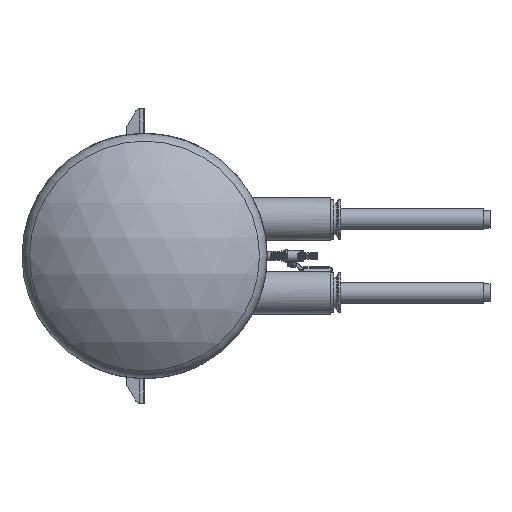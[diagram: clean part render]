
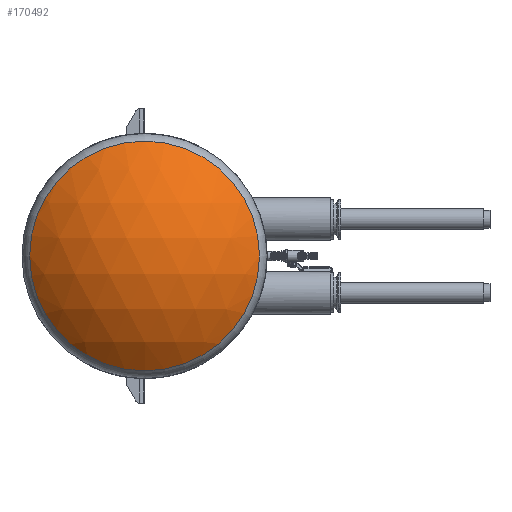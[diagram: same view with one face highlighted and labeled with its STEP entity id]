
A CAD part, left-side view. The second image highlights one B-rep face of the part: STEP entity #170492.
In plain terms, the highlighted spherical face has radius 346.109 mm.
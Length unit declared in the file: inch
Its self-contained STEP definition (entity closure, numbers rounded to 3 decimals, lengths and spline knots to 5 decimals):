
#1084 = CARTESIAN_POINT ( 'NONE',  ( -51.01125, 0., -9.37618 ) ) ;
#5167 = ORIENTED_EDGE ( 'NONE', *, *, #64014, .F. ) ;
#45998 = DIRECTION ( 'NONE',  ( 0., 0., -1. ) ) ;
#64014 = EDGE_CURVE ( 'NONE', #113729, #113729, #79769, .T. ) ;
#67509 = FACE_OUTER_BOUND ( 'NONE', #83271, .T. ) ;
#79769 = CIRCLE ( 'NONE', #102762, 9.37618 ) ;
#83271 = EDGE_LOOP ( 'NONE', ( #5167 ) ) ;
#98276 = CARTESIAN_POINT ( 'NONE',  ( -51.01125, 0., 0. ) ) ;
#102074 = SPHERICAL_SURFACE ( 'NONE', #170306, 13.62635 ) ;
#102762 = AXIS2_PLACEMENT_3D ( 'NONE', #98276, #141536, #45998 ) ;
#102933 = CARTESIAN_POINT ( 'NONE',  ( -41.12365, 0., 0. ) ) ;
#113729 = VERTEX_POINT ( 'NONE', #1084 ) ;
#131760 = DIRECTION ( 'NONE',  ( 0., 0., 1. ) ) ;
#141536 = DIRECTION ( 'NONE',  ( 1., 0., 0. ) ) ;
#157921 = DIRECTION ( 'NONE',  ( 0., 1., 0. ) ) ;
#170306 = AXIS2_PLACEMENT_3D ( 'NONE', #102933, #131760, #157921 ) ;
#170492 = ADVANCED_FACE ( 'NONE', ( #67509 ), #102074, .T. ) ;
